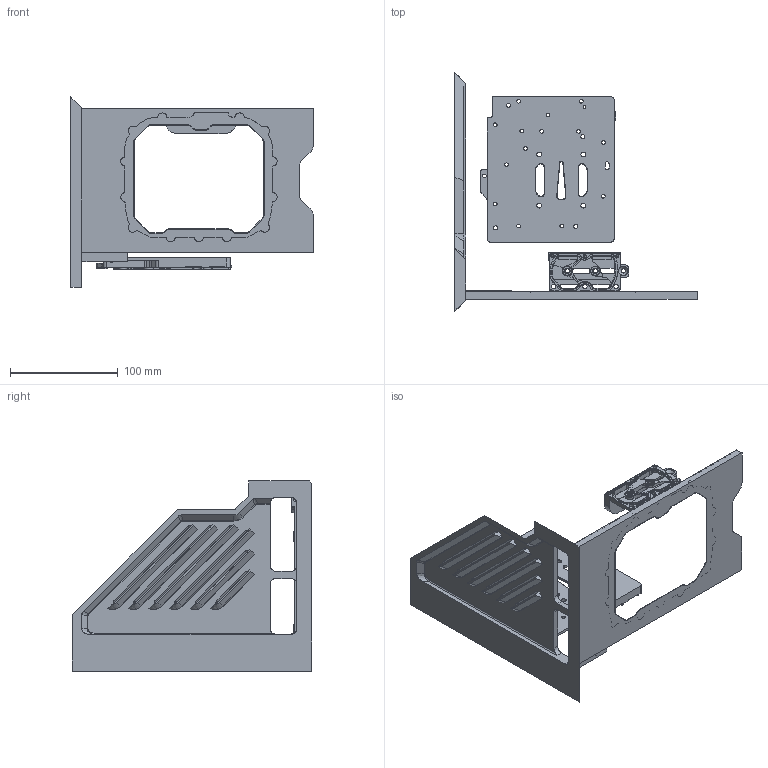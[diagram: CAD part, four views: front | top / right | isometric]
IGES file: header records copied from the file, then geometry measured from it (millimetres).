
Global section: file name: IGES; native system: unknown; preprocessor: unknown; author: unknown; organization: unknown; date: 20240322.081113; units: millimetre
Bounding box: 225.37 x 222.13 x 176.77 mm (x, y, z)
Volume: 324255.7 mm3; surface area: 164938.8 mm2
Topology: 4 solids, 5 shells, 1473 faces, 4045 edges, 2618 vertices
Faces by surface type: bspline 1473
